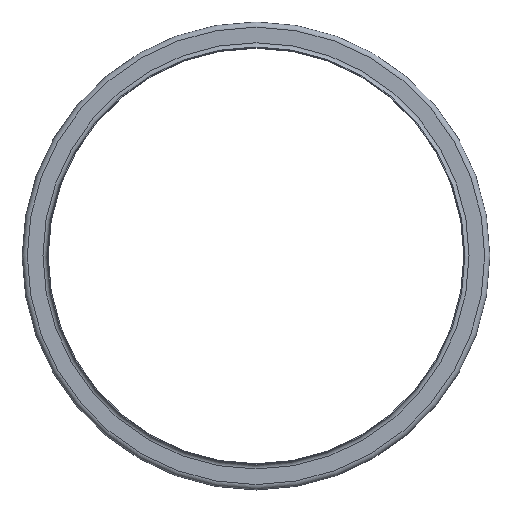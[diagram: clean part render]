
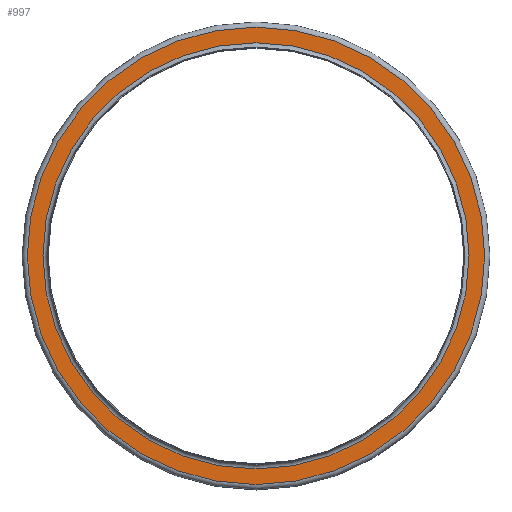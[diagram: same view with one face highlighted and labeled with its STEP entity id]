
A CAD part, top view. The second image highlights one B-rep face of the part: STEP entity #997.
In plain terms, the highlighted planar face has unit normal (0, 0, 1).
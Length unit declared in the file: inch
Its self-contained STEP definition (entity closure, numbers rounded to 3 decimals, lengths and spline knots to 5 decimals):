
#95=FACE_BOUND('',#269,.T.);
#162=FACE_OUTER_BOUND('',#268,.T.);
#268=EDGE_LOOP('',(#769));
#269=EDGE_LOOP('',(#770));
#382=CIRCLE('',#1186,11.274);
#383=CIRCLE('',#1188,12.101);
#463=VERTEX_POINT('',#1810);
#464=VERTEX_POINT('',#1814);
#568=EDGE_CURVE('',#463,#463,#382,.T.);
#569=EDGE_CURVE('',#464,#464,#383,.T.);
#769=ORIENTED_EDGE('',*,*,#569,.F.);
#770=ORIENTED_EDGE('',*,*,#568,.T.);
#851=PLANE('',#1187);
#997=ADVANCED_FACE('',(#162,#95),#851,.T.);
#1186=AXIS2_PLACEMENT_3D('',#1812,#1522,#1523);
#1187=AXIS2_PLACEMENT_3D('',#1813,#1524,#1525);
#1188=AXIS2_PLACEMENT_3D('',#1815,#1526,#1527);
#1522=DIRECTION('center_axis',(0.,0.,-1.));
#1523=DIRECTION('ref_axis',(1.,0.,0.));
#1524=DIRECTION('center_axis',(0.,0.,1.));
#1525=DIRECTION('ref_axis',(1.,0.,0.));
#1526=DIRECTION('center_axis',(0.,0.,-1.));
#1527=DIRECTION('ref_axis',(1.,0.,0.));
#1810=CARTESIAN_POINT('',(11.274,0.,-0.226));
#1812=CARTESIAN_POINT('Origin',(0.,0.,-0.226));
#1813=CARTESIAN_POINT('Origin',(0.,12.101,-0.226));
#1814=CARTESIAN_POINT('',(12.101,0.,-0.226));
#1815=CARTESIAN_POINT('Origin',(0.,0.,-0.226));
